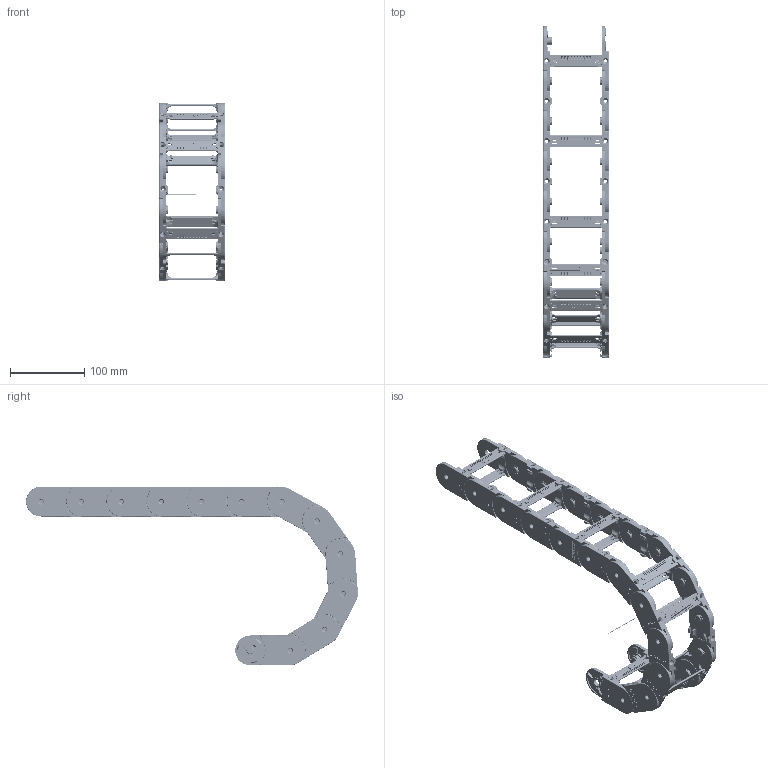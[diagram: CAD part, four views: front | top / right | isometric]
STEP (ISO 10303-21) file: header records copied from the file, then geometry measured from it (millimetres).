
FILE_DESCRIPTION((''),'2;1');
FILE_NAME('E:\Uebbing\PARAMETERKETTEN\PKK\PKK 140\PKK 140 R100 vereinfacht.stp','2018-09-25T10:48:25',('Nutzer'),(''),'Autodesk Inventor 10','Autodesk Inventor 10','');
FILE_SCHEMA(('AUTOMOTIVE_DESIGN { 1 0 10303 214 1 1 1 1 }'));
Length unit declared in the file: millimetre
Products named in the file (8): PKK 140 PARAMETRISCH; Achse; PKK 140 Glied; PKK 120 Steg 70; PKK 140 Hauptlasche R50 3 Anschläge; PKK 120 Spreizriegel; PKK 140 Glied ohne STEG; PKK 140 Hauptlasche R60
Assembly tree (23 placements, depth 3):
  PKK 140 PARAMETRISCH
    Achse
    PKK 140 Glied  x7
      PKK 120 Steg 70
      PKK 140 Hauptlasche R50 3 Anschläge
      PKK 120 Spreizriegel
    PKK 140 Glied ohne STEG  x5
      PKK 140 Hauptlasche R60
      PKK 120 Spreizriegel
Bounding box: 88 x 446.26 x 240 mm (x, y, z)
Volume: 444341.2 mm3; surface area: 299494.9 mm2
Topology: 63 solids, 63 shells, 18343 faces, 48928 edges, 31633 vertices
Faces by surface type: plane 9018, cylinder 5085, bspline 3010, torus 730, cone 376, sphere 124
Full cylindrical faces by diameter (mm): 1 x1, 1.474 x24, 2.589 x24, 4.2 x24, 6 x24, 8.2 x24, 10 x24, 10.1 x24
Entity records: 47308 total; most frequent: CARTESIAN_POINT 13722, ORIENTED_EDGE 7224, DIRECTION 6427, EDGE_CURVE 3612, VERTEX_POINT 2365, VECTOR 2299, LINE 2299, AXIS2_PLACEMENT_3D 2064
